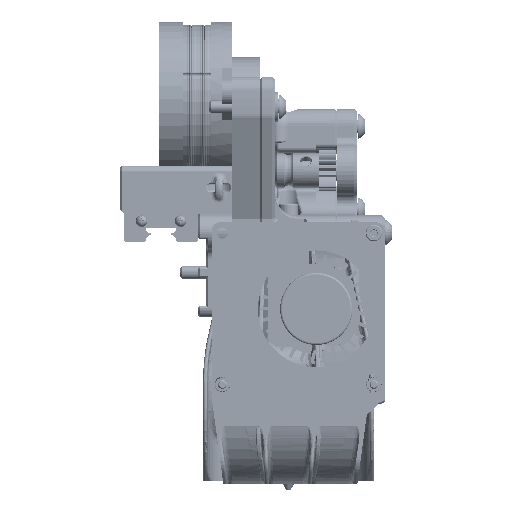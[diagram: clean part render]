
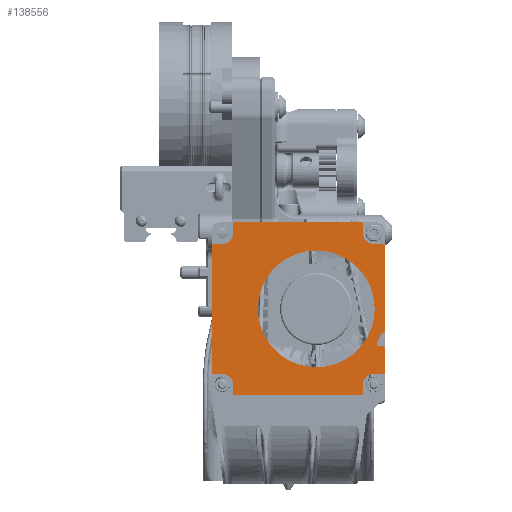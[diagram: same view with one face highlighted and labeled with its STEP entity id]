
A CAD part, left-side view. The second image highlights one B-rep face of the part: STEP entity #138556.
In plain terms, the highlighted planar face has unit normal (-1, 0, 0) as drawn and (0, 0, 1) by its records, which use the part's own axes.
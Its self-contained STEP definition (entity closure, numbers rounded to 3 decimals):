
#9049=FACE_BOUND('',#29807,.T.);
#12341=PLANE('',#152863);
#21347=FACE_OUTER_BOUND('',#29806,.T.);
#29806=EDGE_LOOP('',(#120602,#120603,#120604,#120605,#120606,#120607,#120608,
#120609,#120610,#120611,#120612,#120613,#120614,#120615,#120616,#120617,
#120618,#120619,#120620,#120621,#120622,#120623,#120624,#120625));
#29807=EDGE_LOOP('',(#120626));
#38177=LINE('',#325688,#46280);
#38218=LINE('',#325811,#46321);
#38223=LINE('',#325824,#46326);
#38227=LINE('',#325836,#46330);
#38283=LINE('',#325972,#46386);
#38290=LINE('',#325983,#46393);
#38294=LINE('',#325995,#46397);
#38298=LINE('',#326003,#46401);
#38303=LINE('',#326014,#46406);
#38307=LINE('',#326023,#46410);
#38309=LINE('',#326028,#46412);
#38316=LINE('',#326041,#46419);
#38325=LINE('',#326057,#46428);
#38330=LINE('',#326066,#46433);
#38334=LINE('',#326078,#46437);
#38335=LINE('',#326080,#46438);
#46280=VECTOR('',#184122,1000.);
#46321=VECTOR('',#184235,1000.);
#46326=VECTOR('',#184248,1000.);
#46330=VECTOR('',#184260,1000.);
#46386=VECTOR('',#184382,1000.);
#46393=VECTOR('',#184391,1000.);
#46397=VECTOR('',#184403,1000.);
#46401=VECTOR('',#184409,1000.);
#46406=VECTOR('',#184416,1000.);
#46410=VECTOR('',#184422,1000.);
#46412=VECTOR('',#184426,1000.);
#46419=VECTOR('',#184435,1000.);
#46428=VECTOR('',#184446,1000.);
#46433=VECTOR('',#184453,1000.);
#46437=VECTOR('',#184465,1000.);
#46438=VECTOR('',#184468,1000.);
#53867=CIRCLE('',#152777,13.5);
#53881=CIRCLE('',#152807,2.5);
#53883=CIRCLE('',#152811,2.5);
#53897=CIRCLE('',#152849,2.5);
#53899=CIRCLE('',#152860,2.5);
#53900=CIRCLE('',#152864,0.35);
#53901=CIRCLE('',#152865,0.3);
#53902=CIRCLE('',#152866,0.3);
#53903=CIRCLE('',#152867,0.35);
#64963=VERTEX_POINT('',#325685);
#64964=VERTEX_POINT('',#325687);
#64970=VERTEX_POINT('',#325705);
#65009=VERTEX_POINT('',#325808);
#65010=VERTEX_POINT('',#325810);
#65012=VERTEX_POINT('',#325816);
#65014=VERTEX_POINT('',#325822);
#65016=VERTEX_POINT('',#325828);
#65018=VERTEX_POINT('',#325834);
#65065=VERTEX_POINT('',#325970);
#65068=VERTEX_POINT('',#325981);
#65070=VERTEX_POINT('',#325987);
#65072=VERTEX_POINT('',#325993);
#65075=VERTEX_POINT('',#326001);
#65079=VERTEX_POINT('',#326011);
#65080=VERTEX_POINT('',#326013);
#65083=VERTEX_POINT('',#326020);
#65084=VERTEX_POINT('',#326022);
#65085=VERTEX_POINT('',#326026);
#65086=VERTEX_POINT('',#326027);
#65091=VERTEX_POINT('',#326040);
#65097=VERTEX_POINT('',#326055);
#65100=VERTEX_POINT('',#326064);
#65102=VERTEX_POINT('',#326070);
#65104=VERTEX_POINT('',#326076);
#83920=EDGE_CURVE('',#64964,#64963,#38177,.T.);
#83930=EDGE_CURVE('',#64970,#64970,#53867,.T.);
#83979=EDGE_CURVE('',#65010,#65009,#38218,.T.);
#83983=EDGE_CURVE('',#65009,#65012,#53881,.T.);
#83986=EDGE_CURVE('',#65014,#65012,#38223,.T.);
#83989=EDGE_CURVE('',#64963,#65016,#53883,.T.);
#83992=EDGE_CURVE('',#65018,#65016,#38227,.T.);
#84060=EDGE_CURVE('',#65018,#65065,#38283,.T.);
#84067=EDGE_CURVE('',#65065,#65068,#38290,.T.);
#84070=EDGE_CURVE('',#65070,#65068,#53897,.T.);
#84073=EDGE_CURVE('',#65072,#65070,#38294,.T.);
#84077=EDGE_CURVE('',#65072,#65075,#38298,.T.);
#84082=EDGE_CURVE('',#65080,#65079,#38303,.T.);
#84086=EDGE_CURVE('',#65084,#65083,#38307,.T.);
#84088=EDGE_CURVE('',#65085,#65086,#38309,.T.);
#84095=EDGE_CURVE('',#65091,#65010,#38316,.T.);
#84104=EDGE_CURVE('',#65097,#65014,#38325,.T.);
#84109=EDGE_CURVE('',#65097,#65100,#38330,.T.);
#84112=EDGE_CURVE('',#65102,#65100,#53899,.T.);
#84115=EDGE_CURVE('',#65104,#65102,#38334,.T.);
#84116=EDGE_CURVE('',#64964,#65104,#38335,.T.);
#84124=EDGE_CURVE('',#65075,#65080,#53900,.T.);
#84125=EDGE_CURVE('',#65079,#65084,#53901,.T.);
#84126=EDGE_CURVE('',#65083,#65085,#53902,.T.);
#84127=EDGE_CURVE('',#65086,#65091,#53903,.T.);
#120602=ORIENTED_EDGE('',*,*,#84060,.T.);
#120603=ORIENTED_EDGE('',*,*,#84067,.T.);
#120604=ORIENTED_EDGE('',*,*,#84070,.F.);
#120605=ORIENTED_EDGE('',*,*,#84073,.F.);
#120606=ORIENTED_EDGE('',*,*,#84077,.T.);
#120607=ORIENTED_EDGE('',*,*,#84124,.T.);
#120608=ORIENTED_EDGE('',*,*,#84082,.T.);
#120609=ORIENTED_EDGE('',*,*,#84125,.T.);
#120610=ORIENTED_EDGE('',*,*,#84086,.T.);
#120611=ORIENTED_EDGE('',*,*,#84126,.T.);
#120612=ORIENTED_EDGE('',*,*,#84088,.T.);
#120613=ORIENTED_EDGE('',*,*,#84127,.T.);
#120614=ORIENTED_EDGE('',*,*,#84095,.T.);
#120615=ORIENTED_EDGE('',*,*,#83979,.T.);
#120616=ORIENTED_EDGE('',*,*,#83983,.T.);
#120617=ORIENTED_EDGE('',*,*,#83986,.F.);
#120618=ORIENTED_EDGE('',*,*,#84104,.F.);
#120619=ORIENTED_EDGE('',*,*,#84109,.T.);
#120620=ORIENTED_EDGE('',*,*,#84112,.F.);
#120621=ORIENTED_EDGE('',*,*,#84115,.F.);
#120622=ORIENTED_EDGE('',*,*,#84116,.F.);
#120623=ORIENTED_EDGE('',*,*,#83920,.T.);
#120624=ORIENTED_EDGE('',*,*,#83989,.T.);
#120625=ORIENTED_EDGE('',*,*,#83992,.F.);
#120626=ORIENTED_EDGE('',*,*,#83930,.F.);
#138556=ADVANCED_FACE('',(#21347,#9049),#12341,.T.);
#152777=AXIS2_PLACEMENT_3D('',#325707,#184143,#184144);
#152807=AXIS2_PLACEMENT_3D('',#325818,#184242,#184243);
#152811=AXIS2_PLACEMENT_3D('',#325830,#184254,#184255);
#152849=AXIS2_PLACEMENT_3D('',#325989,#184397,#184398);
#152860=AXIS2_PLACEMENT_3D('',#326072,#184459,#184460);
#152863=AXIS2_PLACEMENT_3D('',#326092,#184476,#184477);
#152864=AXIS2_PLACEMENT_3D('',#326093,#184478,#184479);
#152865=AXIS2_PLACEMENT_3D('',#326094,#184480,#184481);
#152866=AXIS2_PLACEMENT_3D('',#326095,#184482,#184483);
#152867=AXIS2_PLACEMENT_3D('',#326096,#184484,#184485);
#184122=DIRECTION('',(1.,0.,0.));
#184143=DIRECTION('center_axis',(0.,0.,1.));
#184144=DIRECTION('ref_axis',(1.,0.,0.));
#184235=DIRECTION('',(-1.,0.,0.));
#184242=DIRECTION('center_axis',(0.,0.,-1.));
#184243=DIRECTION('ref_axis',(1.,0.,0.));
#184248=DIRECTION('',(0.,-1.,0.));
#184254=DIRECTION('center_axis',(0.,0.,-1.));
#184255=DIRECTION('ref_axis',(1.,0.,0.));
#184260=DIRECTION('',(0.,1.,0.));
#184382=DIRECTION('',(1.,0.,0.));
#184391=DIRECTION('',(0.,1.,0.));
#184397=DIRECTION('center_axis',(0.,0.,1.));
#184398=DIRECTION('ref_axis',(1.,0.,0.));
#184403=DIRECTION('',(-1.,0.,0.));
#184409=DIRECTION('',(0.,1.,0.));
#184416=DIRECTION('',(-1.,0.,0.));
#184422=DIRECTION('',(0.385,0.923,0.));
#184426=DIRECTION('',(1.,0.,0.));
#184435=DIRECTION('',(0.,1.,0.));
#184446=DIRECTION('',(1.,0.,0.));
#184453=DIRECTION('',(0.,-1.,0.));
#184459=DIRECTION('center_axis',(0.,0.,1.));
#184460=DIRECTION('ref_axis',(1.,0.,0.));
#184465=DIRECTION('',(1.,0.,0.));
#184468=DIRECTION('',(0.,1.,0.));
#184476=DIRECTION('center_axis',(0.,0.,1.));
#184477=DIRECTION('ref_axis',(1.,0.,0.));
#184478=DIRECTION('center_axis',(0.,0.,1.));
#184479=DIRECTION('ref_axis',(1.,0.,0.));
#184480=DIRECTION('center_axis',(0.,0.,-1.));
#184481=DIRECTION('ref_axis',(1.,0.,0.));
#184482=DIRECTION('center_axis',(0.,0.,-1.));
#184483=DIRECTION('ref_axis',(1.,0.,0.));
#184484=DIRECTION('center_axis',(0.,0.,1.));
#184485=DIRECTION('ref_axis',(1.,0.,0.));
#325685=CARTESIAN_POINT('',(4.088,12.405,25.289));
#325687=CARTESIAN_POINT('',(1.588,12.405,25.289));
#325688=CARTESIAN_POINT('',(21.588,12.405,25.289));
#325705=CARTESIAN_POINT('',(12.288,27.405,25.289));
#325707=CARTESIAN_POINT('Origin',(25.788,27.405,25.289));
#325808=CARTESIAN_POINT('',(39.088,42.405,25.289));
#325810=CARTESIAN_POINT('',(41.588,42.405,25.289));
#325811=CARTESIAN_POINT('',(21.588,42.405,25.289));
#325816=CARTESIAN_POINT('',(36.588,44.905,25.289));
#325818=CARTESIAN_POINT('Origin',(39.088,44.905,25.289));
#325822=CARTESIAN_POINT('',(36.588,47.405,25.289));
#325824=CARTESIAN_POINT('',(36.588,27.405,25.289));
#325828=CARTESIAN_POINT('',(6.588,9.905,25.289));
#325830=CARTESIAN_POINT('Origin',(4.088,9.905,25.289));
#325834=CARTESIAN_POINT('',(6.588,7.405,25.289));
#325836=CARTESIAN_POINT('',(6.588,27.405,25.289));
#325970=CARTESIAN_POINT('',(36.588,7.405,25.289));
#325972=CARTESIAN_POINT('',(21.588,7.405,25.289));
#325981=CARTESIAN_POINT('',(36.588,9.905,25.289));
#325983=CARTESIAN_POINT('',(36.588,27.405,25.289));
#325987=CARTESIAN_POINT('',(39.088,12.405,25.289));
#325989=CARTESIAN_POINT('Origin',(39.088,9.905,25.289));
#325993=CARTESIAN_POINT('',(41.588,12.405,25.289));
#325995=CARTESIAN_POINT('',(21.588,12.405,25.289));
#326001=CARTESIAN_POINT('',(41.588,18.555,25.289));
#326003=CARTESIAN_POINT('',(41.588,27.405,25.289));
#326011=CARTESIAN_POINT('',(40.038,18.905,25.289));
#326013=CARTESIAN_POINT('',(41.238,18.905,25.289));
#326014=CARTESIAN_POINT('',(21.588,18.905,25.289));
#326020=CARTESIAN_POINT('',(40.761,21.721,25.289));
#326022=CARTESIAN_POINT('',(39.761,19.321,25.289));
#326023=CARTESIAN_POINT('',(39.943,19.757,25.289));
#326026=CARTESIAN_POINT('',(41.038,21.905,25.289));
#326027=CARTESIAN_POINT('',(41.238,21.905,25.289));
#326028=CARTESIAN_POINT('',(21.588,21.905,25.289));
#326040=CARTESIAN_POINT('',(41.588,22.255,25.289));
#326041=CARTESIAN_POINT('',(41.588,27.405,25.289));
#326055=CARTESIAN_POINT('',(6.588,47.405,25.289));
#326057=CARTESIAN_POINT('',(21.588,47.405,25.289));
#326064=CARTESIAN_POINT('',(6.588,44.905,25.289));
#326066=CARTESIAN_POINT('',(6.588,27.405,25.289));
#326070=CARTESIAN_POINT('',(4.088,42.405,25.289));
#326072=CARTESIAN_POINT('Origin',(4.088,44.905,25.289));
#326076=CARTESIAN_POINT('',(1.588,42.405,25.289));
#326078=CARTESIAN_POINT('',(21.588,42.405,25.289));
#326080=CARTESIAN_POINT('',(1.588,27.405,25.289));
#326092=CARTESIAN_POINT('Origin',(21.588,27.405,25.289));
#326093=CARTESIAN_POINT('Origin',(41.238,18.555,25.289));
#326094=CARTESIAN_POINT('Origin',(40.038,19.205,25.289));
#326095=CARTESIAN_POINT('Origin',(41.038,21.605,25.289));
#326096=CARTESIAN_POINT('Origin',(41.238,22.255,25.289));
